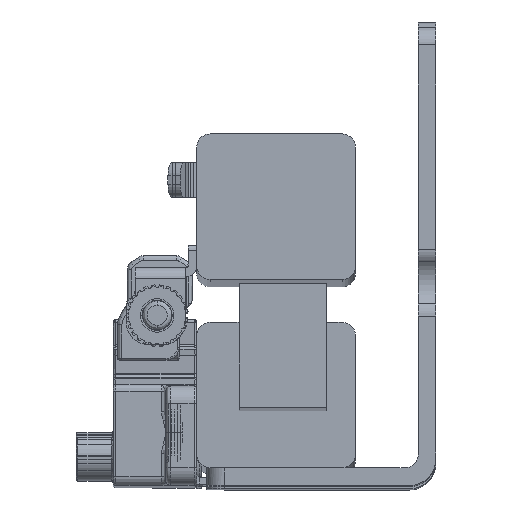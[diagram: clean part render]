
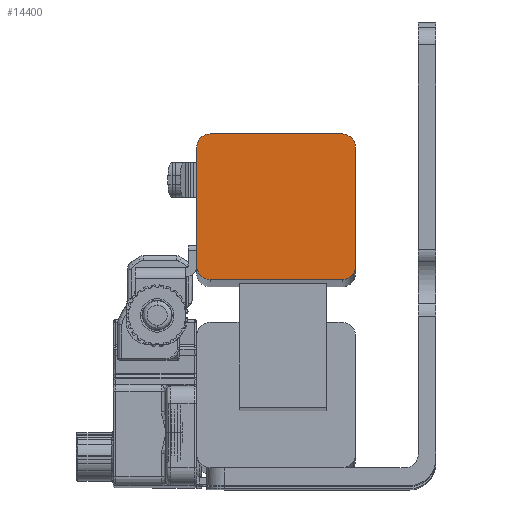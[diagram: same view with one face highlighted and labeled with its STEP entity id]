
A CAD part, top view. The second image highlights one B-rep face of the part: STEP entity #14400.
In plain terms, the highlighted planar face has unit normal (0, 0, 1).
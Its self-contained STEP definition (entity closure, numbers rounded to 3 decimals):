
#1146 = DIRECTION ( 'NONE',  ( 0., 0., 1. ) ) ;
#1547 = VERTEX_POINT ( 'NONE', #31126 ) ;
#1646 = AXIS2_PLACEMENT_3D ( 'NONE', #4275, #22069, #35682 ) ;
#3305 = ORIENTED_EDGE ( 'NONE', *, *, #61268, .T. ) ;
#3899 = CARTESIAN_POINT ( 'NONE',  ( 9., 6.75, 493.1 ) ) ;
#4275 = CARTESIAN_POINT ( 'NONE',  ( 7.5, -6.75, 493.1 ) ) ;
#4650 = ORIENTED_EDGE ( 'NONE', *, *, #27013, .T. ) ;
#4730 = PLANE ( 'NONE',  #23442 ) ;
#5383 = VERTEX_POINT ( 'NONE', #30605 ) ;
#5791 = LINE ( 'NONE', #18993, #83443 ) ;
#7822 = CIRCLE ( 'NONE', #62812, 1.5 ) ;
#7903 = CARTESIAN_POINT ( 'NONE',  ( -9., 8.25, 493.1 ) ) ;
#8326 = VERTEX_POINT ( 'NONE', #53741 ) ;
#9315 = EDGE_CURVE ( 'NONE', #26630, #71384, #58132, .T. ) ;
#11249 = DIRECTION ( 'NONE',  ( 0., 0., 1. ) ) ;
#11767 = FACE_OUTER_BOUND ( 'NONE', #48831, .T. ) ;
#12847 = EDGE_CURVE ( 'NONE', #71938, #8326, #52726, .T. ) ;
#14400 = ADVANCED_FACE ( 'NONE', ( #11767 ), #4730, .T. ) ;
#18853 = CARTESIAN_POINT ( 'NONE',  ( 7.5, 6.75, 493.1 ) ) ;
#18993 = CARTESIAN_POINT ( 'NONE',  ( -7.5, -8.25, 493.1 ) ) ;
#22069 = DIRECTION ( 'NONE',  ( 0., 0., 1. ) ) ;
#22305 = ORIENTED_EDGE ( 'NONE', *, *, #29411, .T. ) ;
#23442 = AXIS2_PLACEMENT_3D ( 'NONE', #87038, #53126, #26719 ) ;
#24174 = DIRECTION ( 'NONE',  ( 0., 0., 1. ) ) ;
#26630 = VERTEX_POINT ( 'NONE', #42780 ) ;
#26651 = LINE ( 'NONE', #38529, #68478 ) ;
#26719 = DIRECTION ( 'NONE',  ( 1., 0., 0. ) ) ;
#27013 = EDGE_CURVE ( 'NONE', #83780, #1547, #7822, .T. ) ;
#29411 = EDGE_CURVE ( 'NONE', #5383, #71938, #26651, .T. ) ;
#30339 = DIRECTION ( 'NONE',  ( -1., 0., 0. ) ) ;
#30605 = CARTESIAN_POINT ( 'NONE',  ( 9., -6.75, 493.1 ) ) ;
#31126 = CARTESIAN_POINT ( 'NONE',  ( -7.5, -8.25, 493.1 ) ) ;
#34727 = DIRECTION ( 'NONE',  ( 0., -1., 0. ) ) ;
#35682 = DIRECTION ( 'NONE',  ( 1., 0., 0. ) ) ;
#38529 = CARTESIAN_POINT ( 'NONE',  ( 9., 6.75, 493.1 ) ) ;
#39856 = DIRECTION ( 'NONE',  ( 1., 0., 0. ) ) ;
#39959 = CARTESIAN_POINT ( 'NONE',  ( -9., 8.25, 493.1 ) ) ;
#41081 = EDGE_CURVE ( 'NONE', #53263, #5383, #45143, .T. ) ;
#42066 = ORIENTED_EDGE ( 'NONE', *, *, #12847, .T. ) ;
#42518 = EDGE_CURVE ( 'NONE', #1547, #53263, #5791, .T. ) ;
#42780 = CARTESIAN_POINT ( 'NONE',  ( -7.5, 8.25, 493.1 ) ) ;
#44865 = EDGE_CURVE ( 'NONE', #8326, #26630, #73471, .T. ) ;
#45143 = CIRCLE ( 'NONE', #1646, 1.5 ) ;
#46529 = ORIENTED_EDGE ( 'NONE', *, *, #9315, .T. ) ;
#48831 = EDGE_LOOP ( 'NONE', ( #3305, #4650, #62340, #79827, #22305, #42066, #83748, #46529 ) ) ;
#52726 = CIRCLE ( 'NONE', #62553, 1.5 ) ;
#53126 = DIRECTION ( 'NONE',  ( 0., 0., 1. ) ) ;
#53263 = VERTEX_POINT ( 'NONE', #66359 ) ;
#53630 = DIRECTION ( 'NONE',  ( -1., 0., 0. ) ) ;
#53741 = CARTESIAN_POINT ( 'NONE',  ( 7.5, 8.25, 493.1 ) ) ;
#58132 = CIRCLE ( 'NONE', #82055, 1.5 ) ;
#58660 = LINE ( 'NONE', #7903, #77074 ) ;
#58793 = CARTESIAN_POINT ( 'NONE',  ( -9., -6.75, 493.1 ) ) ;
#61268 = EDGE_CURVE ( 'NONE', #71384, #83780, #58660, .T. ) ;
#62340 = ORIENTED_EDGE ( 'NONE', *, *, #42518, .T. ) ;
#62553 = AXIS2_PLACEMENT_3D ( 'NONE', #18853, #24174, #30339 ) ;
#62812 = AXIS2_PLACEMENT_3D ( 'NONE', #79915, #11249, #66251 ) ;
#66251 = DIRECTION ( 'NONE',  ( 1., 0., 0. ) ) ;
#66359 = CARTESIAN_POINT ( 'NONE',  ( 7.5, -8.25, 493.1 ) ) ;
#68478 = VECTOR ( 'NONE', #85670, 1000. ) ;
#71038 = CARTESIAN_POINT ( 'NONE',  ( -9., 6.75, 493.1 ) ) ;
#71384 = VERTEX_POINT ( 'NONE', #71038 ) ;
#71938 = VERTEX_POINT ( 'NONE', #3899 ) ;
#73471 = LINE ( 'NONE', #39959, #77717 ) ;
#74243 = CARTESIAN_POINT ( 'NONE',  ( -7.5, 6.75, 493.1 ) ) ;
#77074 = VECTOR ( 'NONE', #34727, 1000. ) ;
#77717 = VECTOR ( 'NONE', #53630, 1000. ) ;
#79827 = ORIENTED_EDGE ( 'NONE', *, *, #41081, .T. ) ;
#79915 = CARTESIAN_POINT ( 'NONE',  ( -7.5, -6.75, 493.1 ) ) ;
#82055 = AXIS2_PLACEMENT_3D ( 'NONE', #74243, #1146, #39856 ) ;
#83443 = VECTOR ( 'NONE', #86795, 1000. ) ;
#83748 = ORIENTED_EDGE ( 'NONE', *, *, #44865, .T. ) ;
#83780 = VERTEX_POINT ( 'NONE', #58793 ) ;
#85670 = DIRECTION ( 'NONE',  ( 0., 1., 0. ) ) ;
#86795 = DIRECTION ( 'NONE',  ( 1., 0., 0. ) ) ;
#87038 = CARTESIAN_POINT ( 'NONE',  ( -7.51, 6.76, 493.1 ) ) ;
